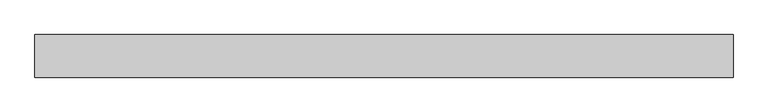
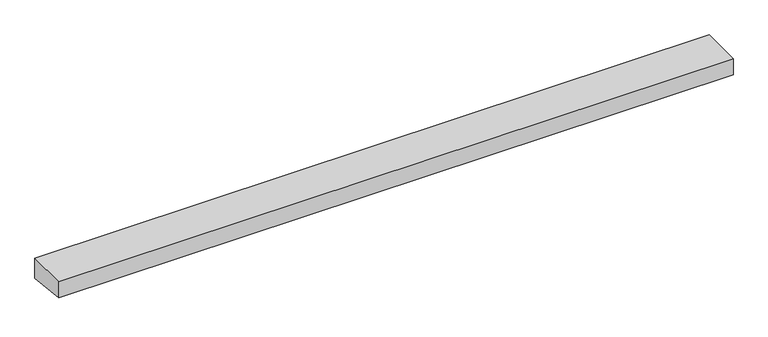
"""IFC4 building model written with IfcOpenShell, lengths in millimetres: proxy geometry, IMPRESS^TABLE 2_30in BASE^SIDE KEEL."""

from ifc_helpers import new_model, si_unit, frame, origin, place, context, project, spatial, polyline, outline, extrude, source, transform, mapped, element, save


def generic_models_582b0730(model_context):
    return source(origin(), model_context, "Body", "SweptSolid", [
        extrude(outline(polyline([(0.0, -10.042253), (0.0, 31.75), (101.6, 31.75), (101.6, -20.7208432), (0.0, -10.042253)])), frame((0.0, 0.0, 0.0), z_axis=(1.0, 0.0, 0.0), x_axis=(0.0, 1.0, 0.0)), (0.0, 0.0, 1.0), 1663.7),
    ])


if __name__ == "__main__":
    model = new_model("IFC4")
    model_context = context("Model", 3, world=origin())
    ifc_project = project(units=[si_unit("LENGTHUNIT", "METRE", prefix="MILLI")], contexts=[model_context])
    site = spatial("IfcSite", under=ifc_project)
    building = spatial("IfcBuilding", under=site)
    placement = place(None, origin())
    generic_models_shape = generic_models_582b0730(model_context)
    element("IfcBuildingElementProxy", 1, Name="IMPRESS^TABLE 2_30in BASE^SIDE KEEL", ObjectType="IMPRESS^TABLE 2_30in BASE^SIDE KEEL", at=placement, inside=building, context=model_context, shape_type="MappedRepresentation", body=[
        mapped(generic_models_shape, transform((0.0, 0.0, 0.0), x_axis=(1.0, 0.0, 0.0), y_axis=(0.0, 1.0, 0.0), z_axis=(0.0, 0.0, 1.0))),
    ])
    save(model, "model.ifc")
